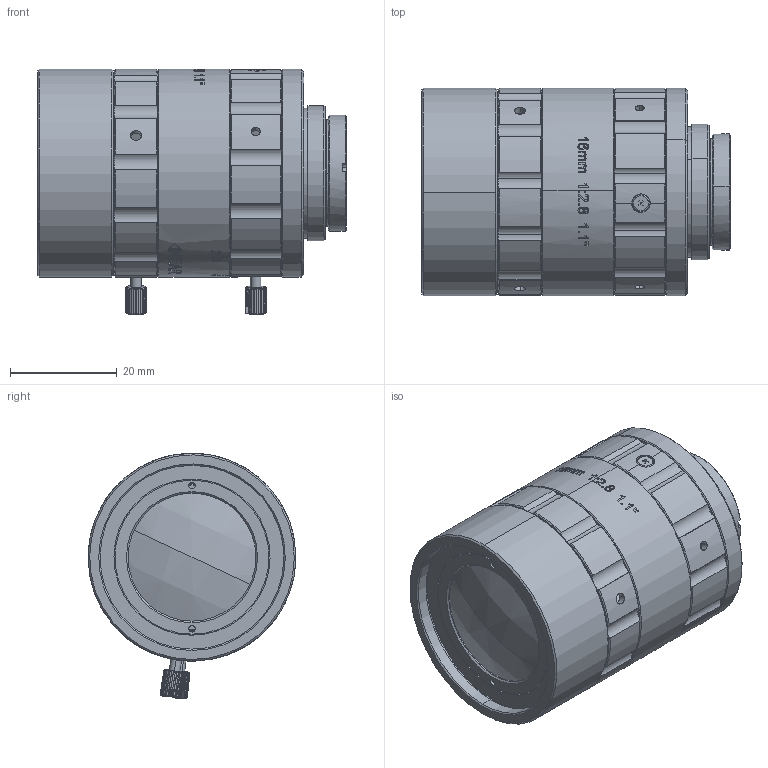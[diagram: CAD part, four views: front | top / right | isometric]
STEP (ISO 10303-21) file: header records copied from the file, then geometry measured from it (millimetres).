
FILE_DESCRIPTION (( 'STEP AP203' ), '1' );
FILE_NAME ('160055-01-1.2.STEP', '2024-04-17T00:53:54', ( 'Windows User' ), ( 'P R C' ), 'SwSTEP 2.0', 'SolidWorks 2021', '' );
FILE_SCHEMA (( 'CONFIG_CONTROL_DESIGN' ));
Length unit declared in the file: millimetre
Products named in the file (1): 160055-01-1.2
Bounding box: 57.91 x 39 x 46.06 mm (x, y, z)
Volume: 13480.5 mm3; surface area: 22643 mm2
Topology: 18 solids, 19 shells, 1048 faces, 2720 edges, 1786 vertices
Faces by surface type: plane 385, cylinder 323, bspline 203, cone 125, sphere 10, torus 2
Entity records: 50241 total; most frequent: CARTESIAN_POINT 26047, ORIENTED_EDGE 5440, DIRECTION 4333, EDGE_CURVE 2720, VERTEX_POINT 1786, AXIS2_PLACEMENT_3D 1703, EDGE_LOOP 1176, ADVANCED_FACE 1048
